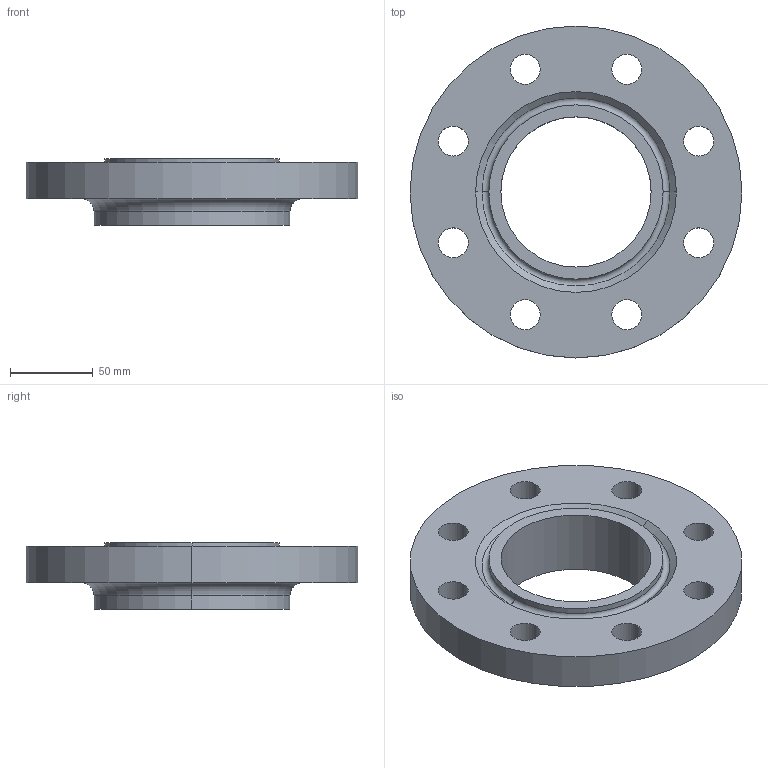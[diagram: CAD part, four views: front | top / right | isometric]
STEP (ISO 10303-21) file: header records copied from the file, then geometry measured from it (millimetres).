
FILE_DESCRIPTION (( 'STEP AP214' ), '1' );
FILE_NAME ('PN40 DN80 Type 12 - Type H Face.STEP', '2019-01-01T19:39:12', ( '' ), ( '' ), 'SwSTEP 2.0', 'SolidWorks 2019', '' );
FILE_SCHEMA (( 'AUTOMOTIVE_DESIGN' ));
Length unit declared in the file: millimetre
Products named in the file (1): PN40 DN80 Type 12 - Type H Face
Bounding box: 200 x 200 x 40 mm (x, y, z)
Volume: 579099.4 mm3; surface area: 87880.1 mm2
Topology: 1 solids, 1 shells, 34 faces, 84 edges, 54 vertices
Faces by surface type: cylinder 24, torus 4, plane 4, cone 2
Entity records: 1108 total; most frequent: DIRECTION 212, CARTESIAN_POINT 173, ORIENTED_EDGE 168, AXIS2_PLACEMENT_3D 93, EDGE_CURVE 84, CIRCLE 58, EDGE_LOOP 54, VERTEX_POINT 54
